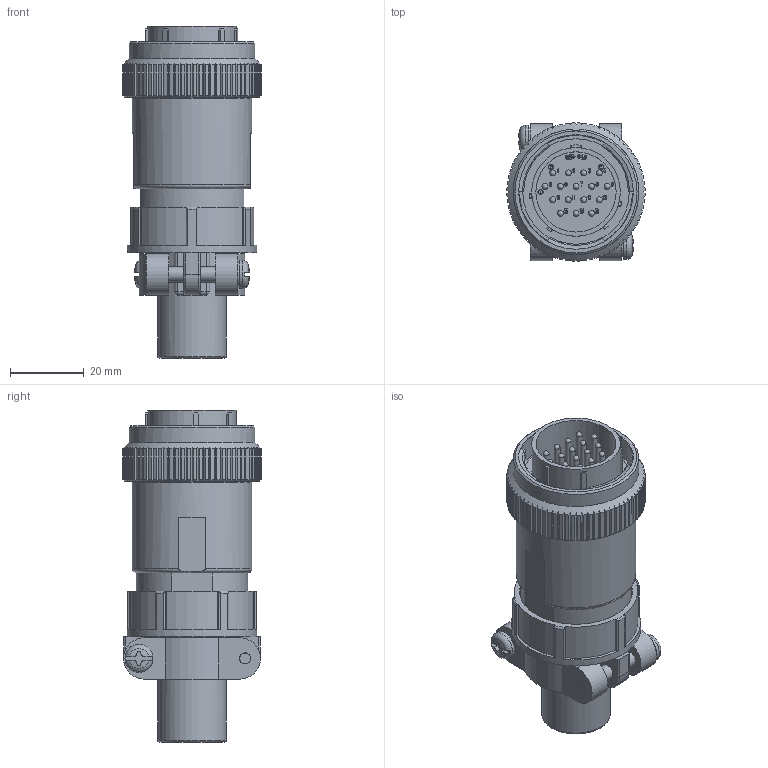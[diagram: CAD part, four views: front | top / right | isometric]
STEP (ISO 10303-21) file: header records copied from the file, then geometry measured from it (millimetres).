
FILE_DESCRIPTION (( 'STEP AP203' ), '1' );
FILE_NAME ('WEBSP2516M-1-D(R1).STEP', '2021-05-19T06:54:21', ( '' ), ( '' ), 'SwSTEP 2.0', 'SolidWorks 2018', '' );
FILE_SCHEMA (( 'CONFIG_CONTROL_DESIGN' ));
Length unit declared in the file: millimetre
Products named in the file (1): WEBSP2516M-1-D(R1)
Bounding box: 37.4 x 37.4 x 89.8 mm (x, y, z)
Volume: 38641.3 mm3; surface area: 25200.5 mm2
Topology: 1 solids, 1 shells, 1649 faces, 4582 edges, 3023 vertices
Faces by surface type: plane 782, bspline 538, cylinder 256, cone 31, sphere 24, torus 18
Full cylindrical faces by diameter (mm): 1.2 x4, 1.4 x4, 1.6 x16, 1.7 x16, 2.4 x16, 2.8 x2, 3 x2, 4.1 x4, 4.3 x2, 7.6 x2, 16.03 x2, 17.8 x1, 18.64 x1, 19 x1, 21.3 x1, 21.7 x1, 23.2 x1, 23.6 x1, 24 x1, 27.85 x1, 28.8 x1, 30.5 x1, 30.6 x1, 32.3 x1, 35 x1
Entity records: 70059 total; most frequent: CARTESIAN_POINT 33053, ORIENTED_EDGE 8648, DIRECTION 5639, EDGE_CURVE 4324, VERTEX_POINT 2921, LINE 2275, VECTOR 2275, EDGE_LOOP 1917
